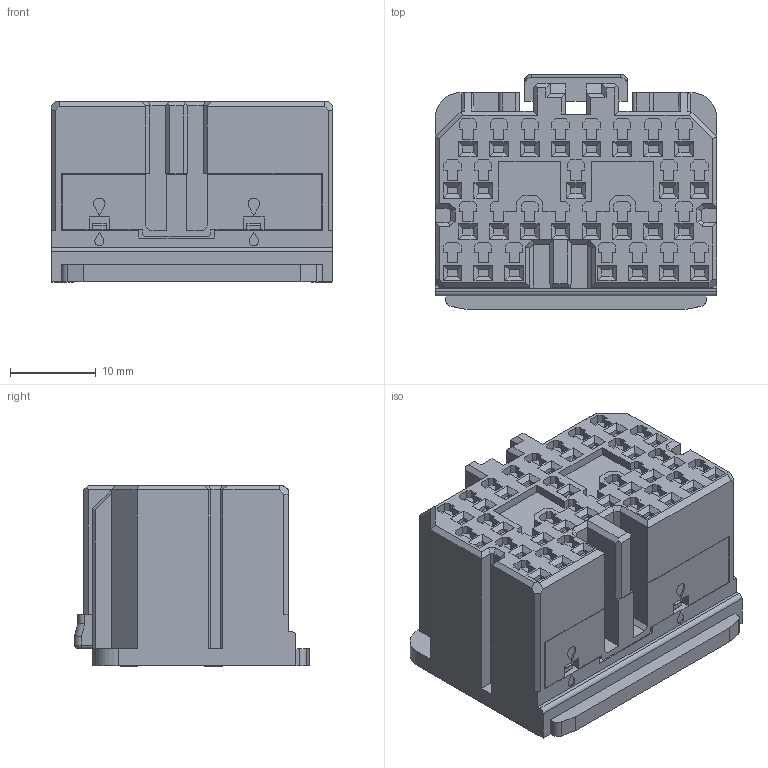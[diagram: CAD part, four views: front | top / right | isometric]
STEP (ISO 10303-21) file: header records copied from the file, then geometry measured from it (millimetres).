
FILE_DESCRIPTION((''),'2;1');
FILE_NAME('C-316019-6','2008-11-14T',('workeradm'),('Tyco Electronics Corporation'),'PRO/ENGINEER BY PARAMETRIC TECHNOLOGY CORPORATION, 2005450','PRO/ENGINEER BY PARAMETRIC TECHNOLOGY CORPORATION, 2005450','');
FILE_SCHEMA(('CONFIG_CONTROL_DESIGN', 'GEOMETRIC_VALIDATION_PROPERTIES_MIM'));
Length unit declared in the file: millimetre
Products named in the file (1): C-316019-6
Bounding box: 32.8 x 27.4 x 21.07 mm (x, y, z)
Volume: 13583.1 mm3; surface area: 6338.1 mm2
Topology: 1 solids, 1 shells, 1534 faces, 4166 edges, 2726 vertices
Faces by surface type: plane 1508, cylinder 24, bspline 2
Entity records: 59864 total; most frequent: CARTESIAN_POINT 8545, ORIENTED_EDGE 8332, DIRECTION 7264, PRESENTATION_STYLE_ASSIGNMENT 4167, STYLED_ITEM 4167, CURVE_STYLE 4166, EDGE_CURVE 4166, VECTOR 4120
